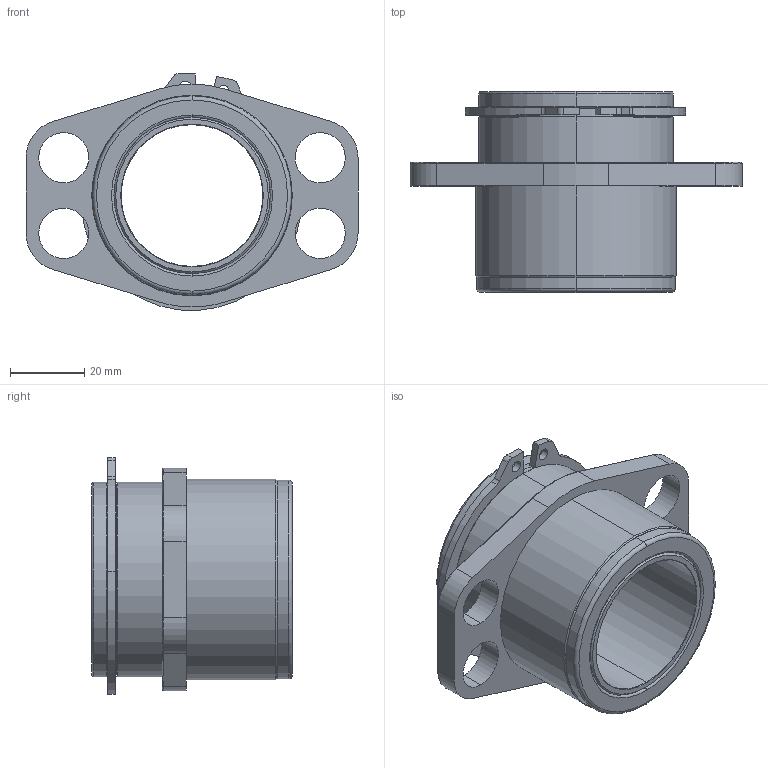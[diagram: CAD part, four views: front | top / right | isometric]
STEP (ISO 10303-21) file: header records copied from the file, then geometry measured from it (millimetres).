
FILE_DESCRIPTION (( 'STEP AP214' ), '1' );
FILE_NAME ('GK150-L2-E-Base.STEP', '2011-05-18T13:29:14', ( '' ), ( '' ), 'SwSTEP 2.0', 'SolidWorks 2010', '' );
FILE_SCHEMA (( 'AUTOMOTIVE_DESIGN' ));
Length unit declared in the file: inch
Products named in the file (4): Base-GK150-L_Base-GK150-L2-E-Cust; RetainingRing-External-Standard-2.125Shaft_RetainingRing-External-Standard-2.125Shaft-L; Bushing-BU-1.5ID-2.0Long_Bushing-BU-1.5ID-2.0Long; GK150-L2-E-Base
Assembly tree (3 placements, depth 2):
  GK150-L2-E-Base
    Base-GK150-L_Base-GK150-L2-E-Cust
    Bushing-BU-1.5ID-2.0Long_Bushing-BU-1.5ID-2.0Long
    RetainingRing-External-Standard-2.125Shaft_RetainingRing-External-Standard-2.125Shaft-L
Bounding box: 89.27 x 53.98 x 63.7 mm (x, y, z)
Volume: 68596.5 mm3; surface area: 37886.8 mm2
Topology: 3 solids, 3 shells, 103 faces, 241 edges, 147 vertices
Faces by surface type: cylinder 51, plane 21, torus 17, cone 14
Entity records: 3199 total; most frequent: DIRECTION 599, CARTESIAN_POINT 497, ORIENTED_EDGE 482, AXIS2_PLACEMENT_3D 249, EDGE_CURVE 241, VERTEX_POINT 147, CIRCLE 140, EDGE_LOOP 122
